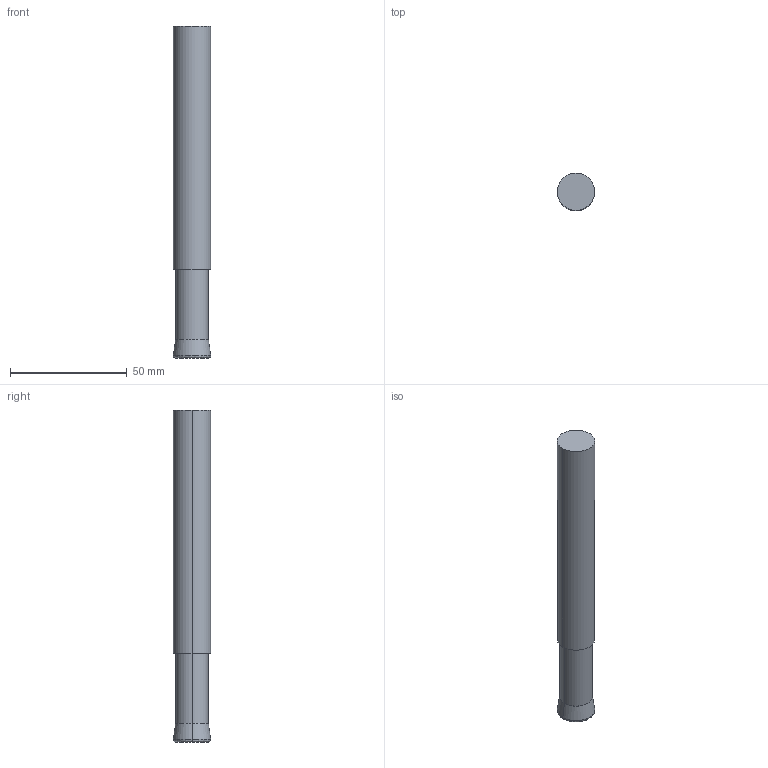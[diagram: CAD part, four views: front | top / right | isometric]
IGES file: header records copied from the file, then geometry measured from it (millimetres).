
Start section: 3D InterOp IGES (v. 2020 1.0.1), Spatial Corp. Copyright (c) 1999-2017.
Global section: file name: WZT1702_16_142.igs; native system: Spatial Corp.; preprocessor: 3D InterOp GENERIC/IGES 3.0; author: Noname; organization: Noname; date: 20201007.095442; units: metre
Bounding box: 16.01 x 16 x 142 mm (x, y, z)
Surface area: 7359.7 mm2 (no closed solid volume)
Topology: 0 solids, 0 shells, 12 faces, 44 edges, 44 vertices
Faces by surface type: revolution 8, extrusion 4
